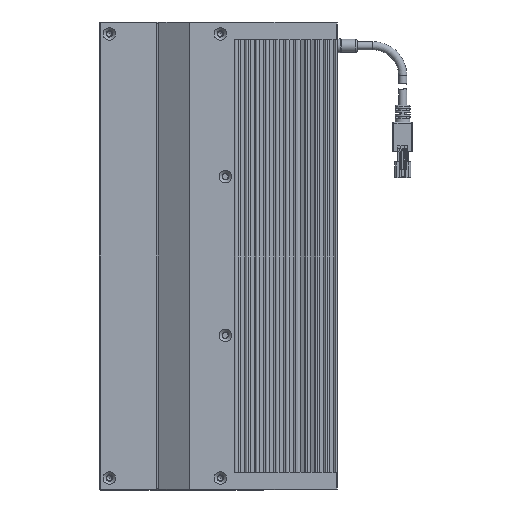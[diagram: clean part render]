
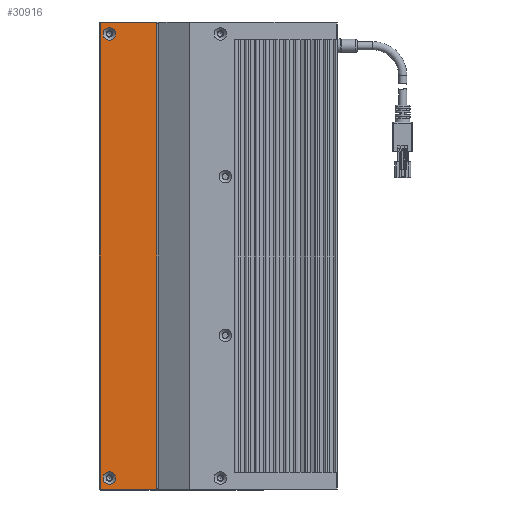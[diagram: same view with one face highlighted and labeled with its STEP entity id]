
A CAD part, left-side view. The second image highlights one B-rep face of the part: STEP entity #30916.
In plain terms, the highlighted planar face has unit normal (-1, 0, 0).
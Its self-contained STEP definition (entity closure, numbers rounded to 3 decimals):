
#692 = EDGE_CURVE ( 'NONE', #6803, #6803, #24725, .T. ) ;
#711 = CARTESIAN_POINT ( 'NONE',  ( -15.462, 16.939, 349.5 ) ) ;
#2034 = VERTEX_POINT ( 'NONE', #3143 ) ;
#2240 = LINE ( 'NONE', #17201, #23860 ) ;
#3104 = DIRECTION ( 'NONE',  ( 0., 0., 1. ) ) ;
#3143 = CARTESIAN_POINT ( 'NONE',  ( -15.462, -6.987, 120. ) ) ;
#3327 = CARTESIAN_POINT ( 'NONE',  ( -15.462, 16.939, 125.5 ) ) ;
#3984 = VERTEX_POINT ( 'NONE', #7286 ) ;
#4556 = DIRECTION ( 'NONE',  ( 0., -1., 0. ) ) ;
#4889 = VECTOR ( 'NONE', #20373, 1000. ) ;
#5482 = ORIENTED_EDGE ( 'NONE', *, *, #15885, .F. ) ;
#5882 = DIRECTION ( 'NONE',  ( -1., 0., 0. ) ) ;
#6803 = VERTEX_POINT ( 'NONE', #30833 ) ;
#7185 = DIRECTION ( 'NONE',  ( 0., 0., -1. ) ) ;
#7286 = CARTESIAN_POINT ( 'NONE',  ( -15.462, 16.939, 352.65 ) ) ;
#7417 = ORIENTED_EDGE ( 'NONE', *, *, #14122, .F. ) ;
#8180 = VERTEX_POINT ( 'NONE', #10033 ) ;
#8267 = DIRECTION ( 'NONE',  ( -1., 0., 0. ) ) ;
#8795 = CARTESIAN_POINT ( 'NONE',  ( -15.462, 21.439, 353.5 ) ) ;
#10033 = CARTESIAN_POINT ( 'NONE',  ( -15.462, -6.987, 355. ) ) ;
#10091 = FACE_OUTER_BOUND ( 'NONE', #31718, .T. ) ;
#10198 = VECTOR ( 'NONE', #29122, 1000. ) ;
#10206 = ORIENTED_EDGE ( 'NONE', *, *, #21231, .F. ) ;
#10404 = VERTEX_POINT ( 'NONE', #18072 ) ;
#11158 = AXIS2_PLACEMENT_3D ( 'NONE', #17149, #22527, #7185 ) ;
#13181 = DIRECTION ( 'NONE',  ( 0., 0., 1. ) ) ;
#13634 = LINE ( 'NONE', #31247, #18002 ) ;
#13699 = FACE_BOUND ( 'NONE', #16913, .T. ) ;
#14122 = EDGE_CURVE ( 'NONE', #3984, #3984, #27995, .T. ) ;
#14212 = LINE ( 'NONE', #8795, #10198 ) ;
#14776 = PLANE ( 'NONE',  #11158 ) ;
#15810 = AXIS2_PLACEMENT_3D ( 'NONE', #711, #8267, #13181 ) ;
#15885 = EDGE_CURVE ( 'NONE', #22702, #8180, #2240, .T. ) ;
#16123 = FACE_BOUND ( 'NONE', #22612, .T. ) ;
#16913 = EDGE_LOOP ( 'NONE', ( #21057 ) ) ;
#17149 = CARTESIAN_POINT ( 'NONE',  ( -15.462, -7.561, 353.5 ) ) ;
#17201 = CARTESIAN_POINT ( 'NONE',  ( -15.462, -7.561, 355. ) ) ;
#18002 = VECTOR ( 'NONE', #21127, 1000. ) ;
#18072 = CARTESIAN_POINT ( 'NONE',  ( -15.462, 21.439, 120. ) ) ;
#19932 = CARTESIAN_POINT ( 'NONE',  ( -15.462, -7.561, 120. ) ) ;
#20270 = ORIENTED_EDGE ( 'NONE', *, *, #22040, .F. ) ;
#20373 = DIRECTION ( 'NONE',  ( 0., 1., 0. ) ) ;
#21057 = ORIENTED_EDGE ( 'NONE', *, *, #692, .F. ) ;
#21127 = DIRECTION ( 'NONE',  ( 0., 0., -1. ) ) ;
#21231 = EDGE_CURVE ( 'NONE', #10404, #22702, #14212, .T. ) ;
#22040 = EDGE_CURVE ( 'NONE', #8180, #2034, #13634, .T. ) ;
#22527 = DIRECTION ( 'NONE',  ( 1., 0., 0. ) ) ;
#22612 = EDGE_LOOP ( 'NONE', ( #7417 ) ) ;
#22702 = VERTEX_POINT ( 'NONE', #22894 ) ;
#22894 = CARTESIAN_POINT ( 'NONE',  ( -15.462, 21.439, 355. ) ) ;
#23860 = VECTOR ( 'NONE', #4556, 1000. ) ;
#24725 = CIRCLE ( 'NONE', #31516, 3.15 ) ;
#26009 = EDGE_CURVE ( 'NONE', #2034, #10404, #32167, .T. ) ;
#27995 = CIRCLE ( 'NONE', #15810, 3.15 ) ;
#29122 = DIRECTION ( 'NONE',  ( 0., 0., 1. ) ) ;
#30833 = CARTESIAN_POINT ( 'NONE',  ( -15.462, 16.939, 128.65 ) ) ;
#30916 = ADVANCED_FACE ( 'NONE', ( #13699, #10091, #16123 ), #14776, .F. ) ;
#31247 = CARTESIAN_POINT ( 'NONE',  ( -15.462, -6.987, 353.5 ) ) ;
#31516 = AXIS2_PLACEMENT_3D ( 'NONE', #3327, #5882, #3104 ) ;
#31718 = EDGE_LOOP ( 'NONE', ( #10206, #32641, #20270, #5482 ) ) ;
#32167 = LINE ( 'NONE', #19932, #4889 ) ;
#32641 = ORIENTED_EDGE ( 'NONE', *, *, #26009, .F. ) ;
